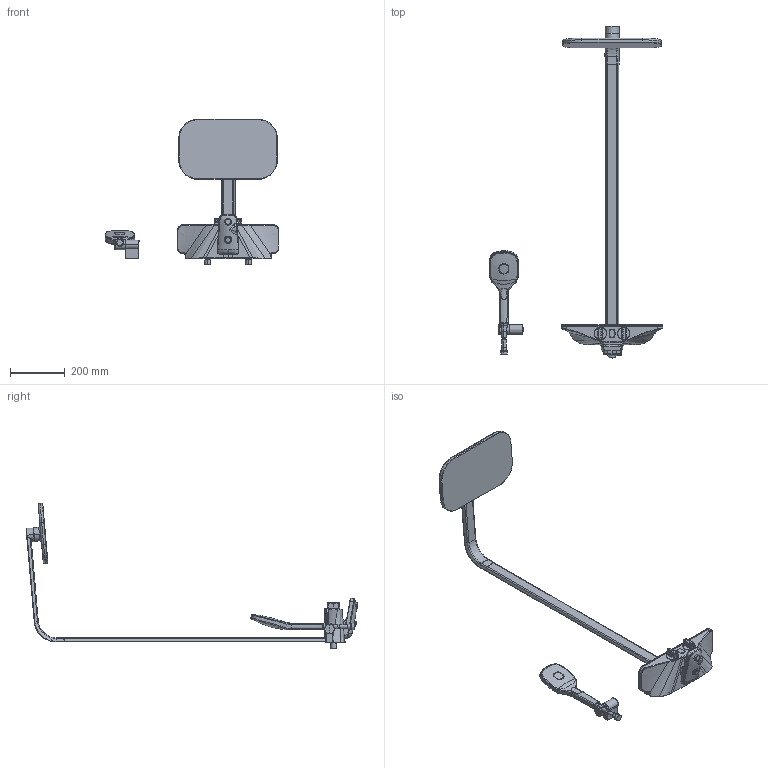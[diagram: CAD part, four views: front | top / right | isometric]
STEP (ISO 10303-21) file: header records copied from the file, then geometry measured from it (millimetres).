
FILE_DESCRIPTION (( 'STEP AP203' ), '1' );
FILE_NAME ('7593U-15(2017)+5865217284.STEP', '2018-01-04T12:11:56', ( '' ), ( '' ), 'SwSTEP 2.0', 'SolidWorks 2016', '' );
FILE_SCHEMA (( 'CONFIG_CONTROL_DESIGN' ));
Length unit declared in the file: millimetre
Products named in the file (1): 7593U-15(2017)+5865217284
Bounding box: 633.79 x 1210.93 x 531.05 mm (x, y, z)
Surface area: 693358.1 mm2 (no closed solid volume)
Topology: 0 solids, 22 shells, 801 faces, 1857 edges, 1103 vertices
Faces by surface type: bspline 274, cylinder 171, plane 131, torus 112, cone 95, sphere 18
Entity records: 62743 total; most frequent: CARTESIAN_POINT 46941, ORIENTED_EDGE 3666, DIRECTION 2663, EDGE_CURVE 1836, AXIS2_PLACEMENT_3D 1106, VERTEX_POINT 1102, EDGE_LOOP 825, FACE_OUTER_BOUND 800
